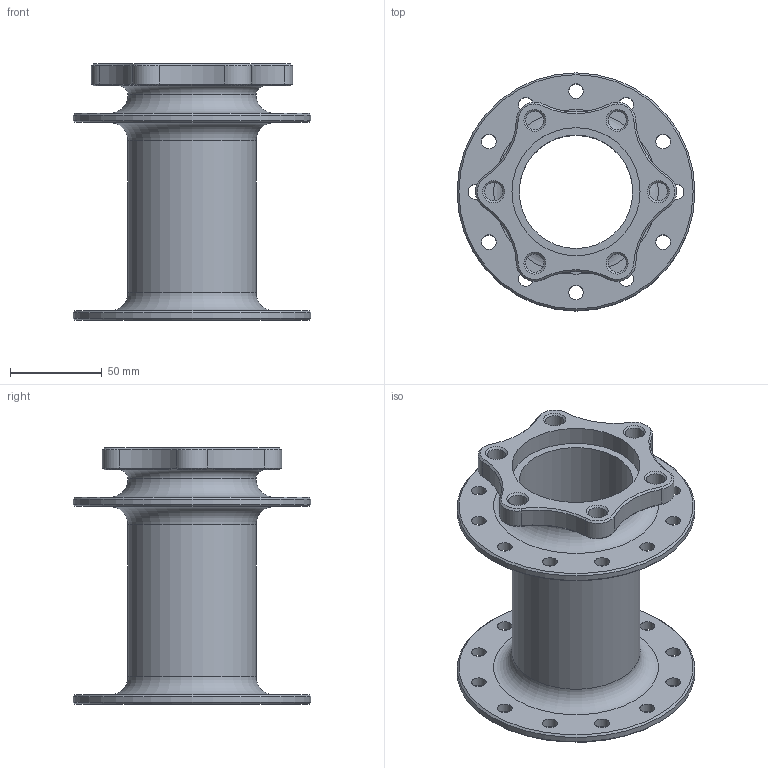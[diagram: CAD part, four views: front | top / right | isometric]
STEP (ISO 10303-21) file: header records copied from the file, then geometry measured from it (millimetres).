
FILE_DESCRIPTION(('Open CASCADE Model'),'2;1');
FILE_NAME('Open CASCADE Shape Model','2026-11-06T08:31:23',('Author'),( 'Open CASCADE'),'Open CASCADE STEP processor 7.8','Open CASCADE 7.8' ,'Unknown');
FILE_SCHEMA(('AUTOMOTIVE_DESIGN { 1 0 10303 214 1 1 1 1 }'));
Length unit declared in the file: millimetre
Products named in the file (1): part 1
Bounding box: 130 x 130 x 140 mm (x, y, z)
Volume: 248052 mm3; surface area: 105428.9 mm2
Topology: 1 solids, 1 shells, 92 faces, 228 edges, 137 vertices
Faces by surface type: cylinder 47, cone 34, plane 7, torus 4
Full cylindrical faces by diameter (mm): 8 x24, 10 x6, 62 x1, 70 x2, 130 x2
Entity records: 5837 total; most frequent: CARTESIAN_POINT 1054, DIRECTION 937, ORIENTED_EDGE 456, PCURVE 456, DEFINITIONAL_REPRESENTATION 456, LINE 363, VECTOR 363, CIRCLE 241
